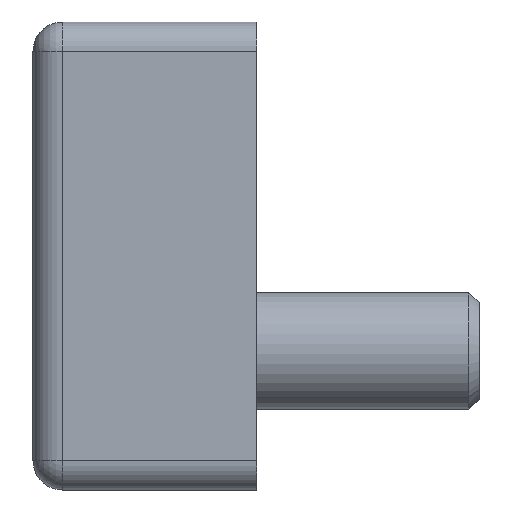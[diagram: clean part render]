
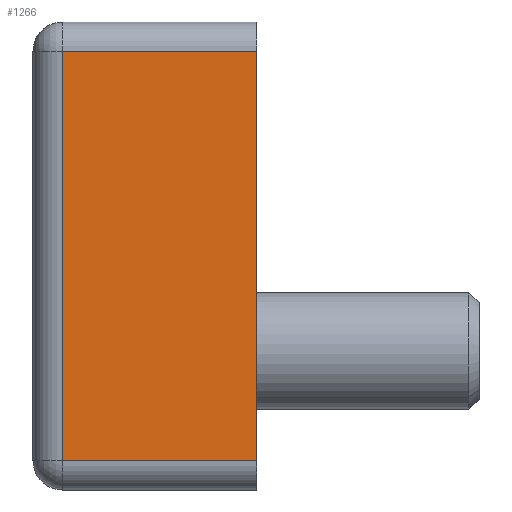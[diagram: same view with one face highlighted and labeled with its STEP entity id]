
A CAD part, left-side view. The second image highlights one B-rep face of the part: STEP entity #1266.
In plain terms, the highlighted planar face has unit normal (-1, 0, 0).
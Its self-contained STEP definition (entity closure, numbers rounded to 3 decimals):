
#92 = VERTEX_POINT ( 'NONE', #1940 ) ;
#186 = DIRECTION ( 'NONE',  ( 0., -1., 0. ) ) ;
#206 = CARTESIAN_POINT ( 'NONE',  ( -41.535, -10.009, 13.774 ) ) ;
#291 = PLANE ( 'NONE',  #3429 ) ;
#759 = CARTESIAN_POINT ( 'NONE',  ( -41.535, 3.291, -16.226 ) ) ;
#817 = EDGE_CURVE ( 'NONE', #3306, #92, #2986, .T. ) ;
#894 = ORIENTED_EDGE ( 'NONE', *, *, #1029, .T. ) ;
#1009 = VECTOR ( 'NONE', #1662, 1000. ) ;
#1029 = EDGE_CURVE ( 'NONE', #3359, #3306, #1384, .T. ) ;
#1144 = ORIENTED_EDGE ( 'NONE', *, *, #3162, .T. ) ;
#1156 = EDGE_LOOP ( 'NONE', ( #2946, #3562, #1144, #894 ) ) ;
#1266 = ADVANCED_FACE ( 'NONE', ( #1993 ), #291, .T. ) ;
#1303 = DIRECTION ( 'NONE',  ( 0., 0., 1. ) ) ;
#1384 = LINE ( 'NONE', #2813, #1009 ) ;
#1593 = LINE ( 'NONE', #3348, #3253 ) ;
#1662 = DIRECTION ( 'NONE',  ( 0., 1., 0. ) ) ;
#1758 = VECTOR ( 'NONE', #186, 1000. ) ;
#1865 = DIRECTION ( 'NONE',  ( 0., 0., 1. ) ) ;
#1902 = CARTESIAN_POINT ( 'NONE',  ( -41.535, -10.009, -14.226 ) ) ;
#1940 = CARTESIAN_POINT ( 'NONE',  ( -41.535, 3.291, -14.226 ) ) ;
#1993 = FACE_OUTER_BOUND ( 'NONE', #1156, .T. ) ;
#2224 = LINE ( 'NONE', #1902, #1758 ) ;
#2419 = DIRECTION ( 'NONE',  ( 0., 0., -1. ) ) ;
#2508 = CARTESIAN_POINT ( 'NONE',  ( -41.535, 3.291, 13.774 ) ) ;
#2643 = VERTEX_POINT ( 'NONE', #2743 ) ;
#2743 = CARTESIAN_POINT ( 'NONE',  ( -41.535, -10.009, -14.226 ) ) ;
#2813 = CARTESIAN_POINT ( 'NONE',  ( -41.535, -10.009, 13.774 ) ) ;
#2946 = ORIENTED_EDGE ( 'NONE', *, *, #817, .T. ) ;
#2970 = EDGE_CURVE ( 'NONE', #92, #2643, #2224, .T. ) ;
#2986 = LINE ( 'NONE', #759, #3062 ) ;
#3062 = VECTOR ( 'NONE', #2419, 1000. ) ;
#3162 = EDGE_CURVE ( 'NONE', #2643, #3359, #1593, .T. ) ;
#3253 = VECTOR ( 'NONE', #1865, 1000. ) ;
#3306 = VERTEX_POINT ( 'NONE', #2508 ) ;
#3348 = CARTESIAN_POINT ( 'NONE',  ( -41.535, -10.009, -16.226 ) ) ;
#3359 = VERTEX_POINT ( 'NONE', #206 ) ;
#3429 = AXIS2_PLACEMENT_3D ( 'NONE', #3568, #3512, #1303 ) ;
#3512 = DIRECTION ( 'NONE',  ( -1., 0., 0. ) ) ;
#3562 = ORIENTED_EDGE ( 'NONE', *, *, #2970, .T. ) ;
#3568 = CARTESIAN_POINT ( 'NONE',  ( -41.535, -10.009, -16.226 ) ) ;
